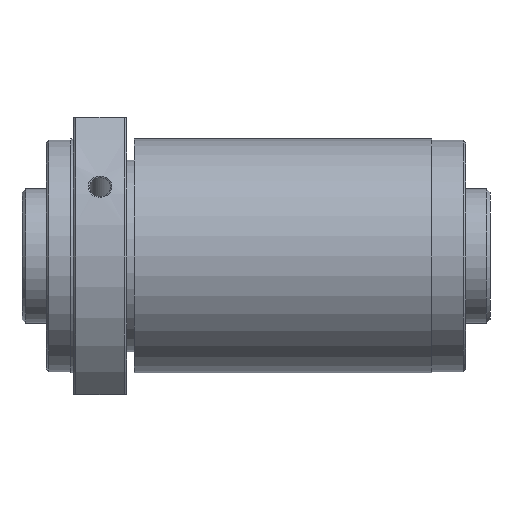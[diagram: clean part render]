
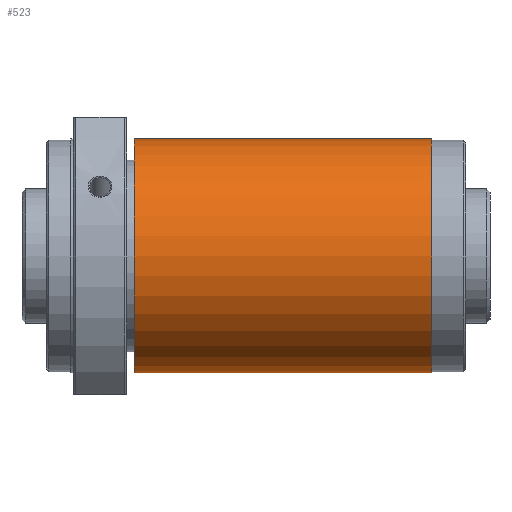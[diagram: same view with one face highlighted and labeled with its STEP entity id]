
A CAD part, front view. The second image highlights one B-rep face of the part: STEP entity #523.
In plain terms, the highlighted cylindrical face has radius 48 mm (diameter 96 mm), a full revolution.
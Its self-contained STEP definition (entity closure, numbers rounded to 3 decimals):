
#61=CYLINDRICAL_SURFACE('',#605,48.);
#121=ORIENTED_EDGE('',*,*,#223,.T.);
#122=ORIENTED_EDGE('',*,*,#222,.F.);
#222=EDGE_CURVE('',#277,#277,#320,.T.);
#223=EDGE_CURVE('',#278,#278,#321,.T.);
#277=VERTEX_POINT('',#910);
#278=VERTEX_POINT('',#913);
#320=CIRCLE('',#604,48.);
#321=CIRCLE('',#606,48.);
#370=EDGE_LOOP('',(#121));
#371=EDGE_LOOP('',(#122));
#446=FACE_BOUND('',#370,.T.);
#447=FACE_BOUND('',#371,.T.);
#523=ADVANCED_FACE('',(#446,#447),#61,.T.);
#604=AXIS2_PLACEMENT_3D('',#909,#723,#724);
#605=AXIS2_PLACEMENT_3D('',#911,#725,#726);
#606=AXIS2_PLACEMENT_3D('',#912,#727,#728);
#723=DIRECTION('',(1.,0.,0.));
#724=DIRECTION('',(0.,0.,-1.));
#725=DIRECTION('',(1.,0.,0.));
#726=DIRECTION('',(0.,0.,-1.));
#727=DIRECTION('',(1.,0.,0.));
#728=DIRECTION('',(0.,0.,-1.));
#909=CARTESIAN_POINT('',(158.1,0.,0.));
#910=CARTESIAN_POINT('',(158.1,0.,-48.));
#911=CARTESIAN_POINT('',(172.,0.,0.));
#912=CARTESIAN_POINT('',(36.,0.,0.));
#913=CARTESIAN_POINT('',(36.,0.,-48.));
